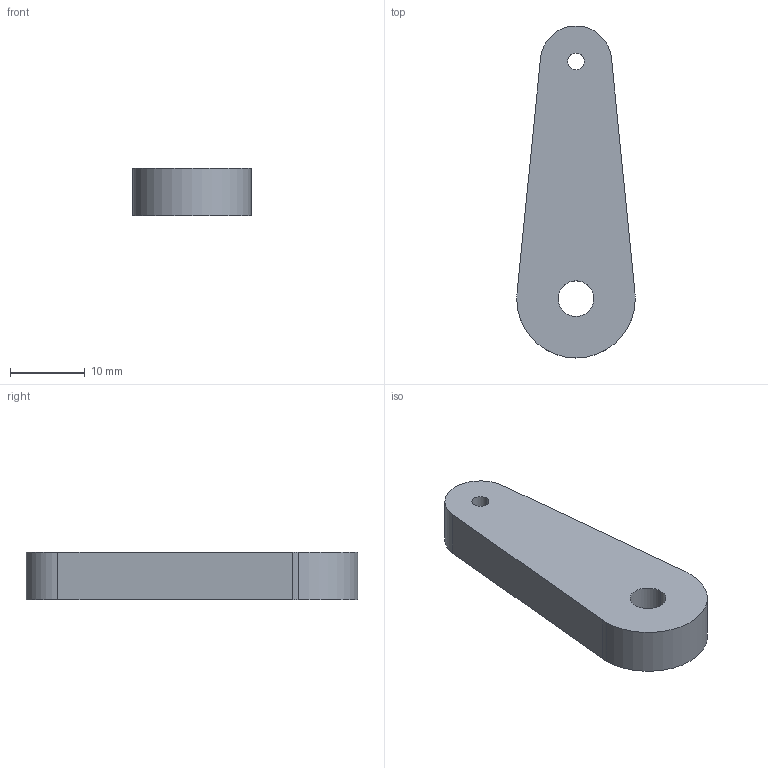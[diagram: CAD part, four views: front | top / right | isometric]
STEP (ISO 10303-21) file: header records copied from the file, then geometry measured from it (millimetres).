
FILE_DESCRIPTION (( 'STEP AP214' ), '1' );
FILE_NAME ('Crank.STEP', '2019-10-04T01:19:54', ( 'John' ), ( 'Not Good' ), 'SwSTEP 2.0', 'SolidWorks 2008', '' );
FILE_SCHEMA (( 'AUTOMOTIVE_DESIGN' ));
Length unit declared in the file: inch
Products named in the file (1): Crank
Bounding box: 15.88 x 44.43 x 6.35 mm (x, y, z)
Volume: 3289.4 mm3; surface area: 1834.7 mm2
Topology: 1 solids, 1 shells, 12 faces, 30 edges, 20 vertices
Faces by surface type: cylinder 8, plane 4
Entity records: 535 total; most frequent: DIRECTION 72, CARTESIAN_POINT 63, ORIENTED_EDGE 60, EDGE_CURVE 30, AXIS2_PLACEMENT_3D 29, VERTEX_POINT 20, CIRCLE 16, EDGE_LOOP 16
